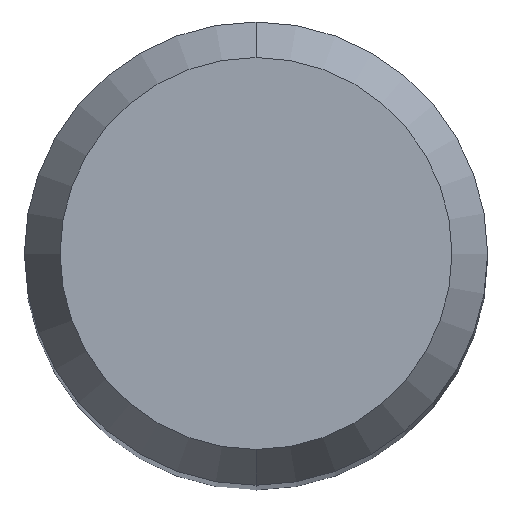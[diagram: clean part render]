
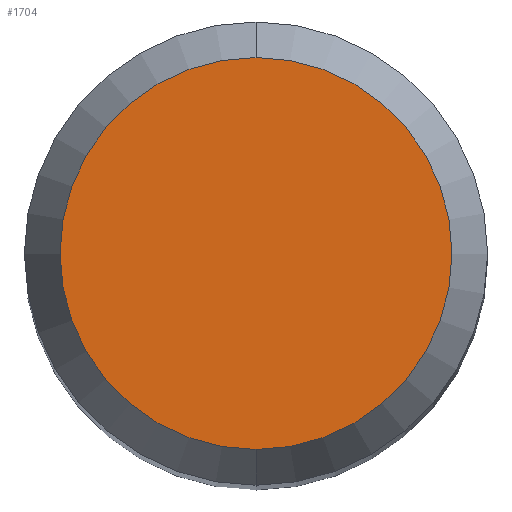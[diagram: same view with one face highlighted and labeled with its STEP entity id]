
A CAD part, top view. The second image highlights one B-rep face of the part: STEP entity #1704.
In plain terms, the highlighted planar face has unit normal (0, 0, 1).
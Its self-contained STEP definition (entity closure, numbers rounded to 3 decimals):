
#1400=VERTEX_POINT('',#2883);
#1560=VERTEX_POINT('',#3055);
#1704=ADVANCED_FACE('',(#3207),#3208,.T.);
#1932=EDGE_CURVE('',#1400,#1560,#3463,.T.);
#2128=EDGE_CURVE('',#1560,#1400,#3675,.T.);
#2883=CARTESIAN_POINT('',(0.,-2.538,0.0));
#3055=CARTESIAN_POINT('',(0.0,2.538,0.0));
#3207=FACE_OUTER_BOUND('',#14331,.T.);
#3208=PLANE('',#14332);
#3463=CIRCLE('',#16688,2.538);
#3675=CIRCLE('',#18052,2.538);
#14331=EDGE_LOOP('',(#19035,#19036));
#14332=AXIS2_PLACEMENT_3D('',#19037,#19038,#19039);
#16688=AXIS2_PLACEMENT_3D('',#19317,#19318,#19319);
#18052=AXIS2_PLACEMENT_3D('',#19520,#19521,#19522);
#19035=ORIENTED_EDGE('',*,*,#2128,.F.);
#19036=ORIENTED_EDGE('',*,*,#1932,.F.);
#19037=CARTESIAN_POINT('',(0.0,1.269,0.0));
#19038=DIRECTION('',(-0.0,0.0,1.0));
#19039=DIRECTION('',(0.0,-1.0,0.0));
#19317=CARTESIAN_POINT('',(0.0,0.0,0.0));
#19318=DIRECTION('',(0.0,0.0,-1.0));
#19319=DIRECTION('',(0.0,1.0,0.0));
#19520=CARTESIAN_POINT('',(0.0,0.0,0.0));
#19521=DIRECTION('',(0.0,0.0,-1.0));
#19522=DIRECTION('',(0.0,1.0,0.0));
